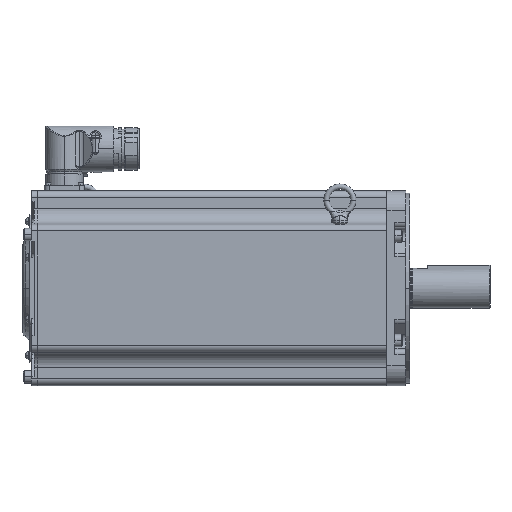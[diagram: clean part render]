
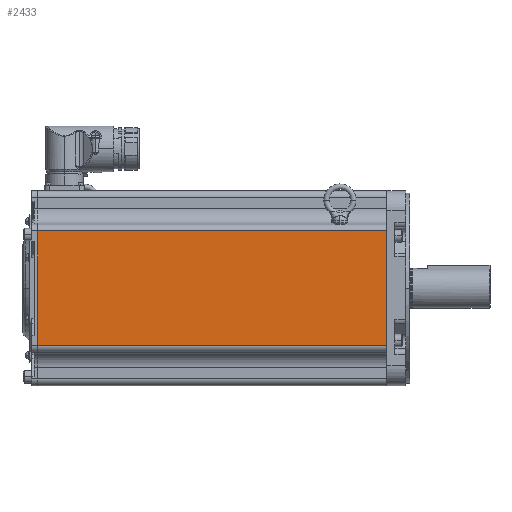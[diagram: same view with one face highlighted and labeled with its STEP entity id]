
A CAD part, top view. The second image highlights one B-rep face of the part: STEP entity #2433.
In plain terms, the highlighted planar face has unit normal (0, 0, 1) as drawn and (0, 0, -1) by its records, which use the part's own axes.
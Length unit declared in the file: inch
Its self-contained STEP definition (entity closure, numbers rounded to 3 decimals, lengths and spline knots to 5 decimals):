
#605 = VERTEX_POINT ( 'NONE', #33362 ) ;
#794 = VERTEX_POINT ( 'NONE', #34077 ) ;
#1347 = PLANE ( 'NONE',  #6154 ) ;
#1661 = LINE ( 'NONE', #7044, #33524 ) ;
#2274 = VERTEX_POINT ( 'NONE', #31238 ) ;
#2433 = ADVANCED_FACE ( 'NONE', ( #19430 ), #1347, .F. ) ;
#3008 = ORIENTED_EDGE ( 'NONE', *, *, #35398, .T. ) ;
#4838 = ORIENTED_EDGE ( 'NONE', *, *, #20987, .T. ) ;
#6154 = AXIS2_PLACEMENT_3D ( 'NONE', #7034, #26769, #9886 ) ;
#7034 = CARTESIAN_POINT ( 'NONE',  ( -13.73, 2.39, -3.635 ) ) ;
#7044 = CARTESIAN_POINT ( 'NONE',  ( -0.7, 2.39, -3.635 ) ) ;
#8318 = DIRECTION ( 'NONE',  ( 1., 0., 0. ) ) ;
#8532 = EDGE_CURVE ( 'NONE', #32829, #794, #8686, .T. ) ;
#8686 = LINE ( 'NONE', #18666, #16207 ) ;
#8848 = CARTESIAN_POINT ( 'NONE',  ( -13.73, 2.14, -3.635 ) ) ;
#9886 = DIRECTION ( 'NONE',  ( 1., 0., 0. ) ) ;
#12490 = LINE ( 'NONE', #13963, #26584 ) ;
#13963 = CARTESIAN_POINT ( 'NONE',  ( -13.73, 2.14, -3.635 ) ) ;
#16207 = VECTOR ( 'NONE', #27152, 39.37008 ) ;
#18117 = CARTESIAN_POINT ( 'NONE',  ( -13.73, -2.14, -3.635 ) ) ;
#18666 = CARTESIAN_POINT ( 'NONE',  ( -13.73, 2.39, -3.635 ) ) ;
#19430 = FACE_OUTER_BOUND ( 'NONE', #22316, .T. ) ;
#19555 = VECTOR ( 'NONE', #23763, 39.37008 ) ;
#20727 = ORIENTED_EDGE ( 'NONE', *, *, #8532, .F. ) ;
#20987 = EDGE_CURVE ( 'NONE', #2274, #794, #35449, .T. ) ;
#22316 = EDGE_LOOP ( 'NONE', ( #3008, #4838, #20727, #26317 ) ) ;
#23763 = DIRECTION ( 'NONE',  ( -1., 0., 0. ) ) ;
#23954 = DIRECTION ( 'NONE',  ( 0., -1., 0. ) ) ;
#25071 = EDGE_CURVE ( 'NONE', #32829, #605, #12490, .T. ) ;
#26317 = ORIENTED_EDGE ( 'NONE', *, *, #25071, .T. ) ;
#26584 = VECTOR ( 'NONE', #8318, 39.37008 ) ;
#26769 = DIRECTION ( 'NONE',  ( 0., 0., 1. ) ) ;
#27152 = DIRECTION ( 'NONE',  ( 0., -1., 0. ) ) ;
#31238 = CARTESIAN_POINT ( 'NONE',  ( -0.7, -2.14, -3.635 ) ) ;
#32829 = VERTEX_POINT ( 'NONE', #8848 ) ;
#33362 = CARTESIAN_POINT ( 'NONE',  ( -0.7, 2.14, -3.635 ) ) ;
#33524 = VECTOR ( 'NONE', #23954, 39.37008 ) ;
#34077 = CARTESIAN_POINT ( 'NONE',  ( -13.73, -2.14, -3.635 ) ) ;
#35398 = EDGE_CURVE ( 'NONE', #605, #2274, #1661, .T. ) ;
#35449 = LINE ( 'NONE', #18117, #19555 ) ;
